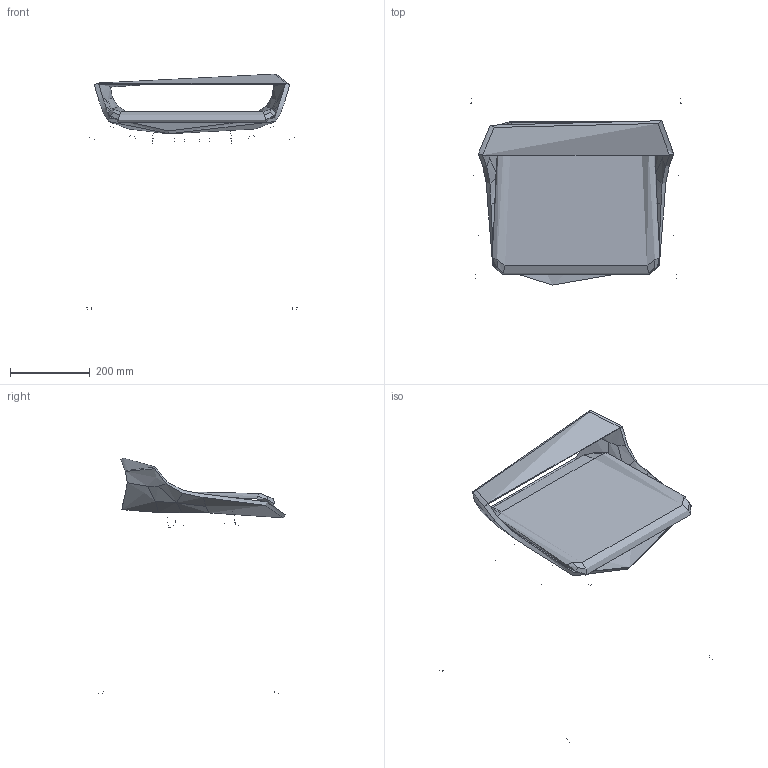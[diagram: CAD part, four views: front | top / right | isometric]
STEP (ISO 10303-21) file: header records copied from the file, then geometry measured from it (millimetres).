
FILE_DESCRIPTION(/* description */ (''),/* implementation_level */ '2;1');
FILE_NAME(/* name */ 'Lotus konf sed bezstoh',/* time_stamp */ '2024-03-11T11:37:34+01:00',/* author */ (''),/* organization */ (''),/* preprocessor_version */ 'ST-DEVELOPER v16.5',/* originating_system */ 'Rhino 7.36',/* authorisation */ '');
FILE_SCHEMA (('CONFIG_CONTROL_DESIGN'));
Length unit declared in the file: millimetre
Products named in the file (1): Document
Bounding box: 530.54 x 467.92 x 591.15 mm (x, y, z)
Volume: 3540760.7 mm3; surface area: 1040548.9 mm2
Topology: 2 solids, 17 shells, 109 faces, 279 edges, 174 vertices
Faces by surface type: bspline 83, cylinder 26
Full cylindrical faces by diameter (mm): 14 x4, 16 x4, 18 x18
Entity records: 16675 total; most frequent: CARTESIAN_POINT 14947, ORIENTED_EDGE 508, EDGE_CURVE 268, B_SPLINE_CURVE_WITH_KNOTS 175, VERTEX_POINT 172, ADVANCED_FACE 109, FACE_OUTER_BOUND 109, EDGE_LOOP 109
